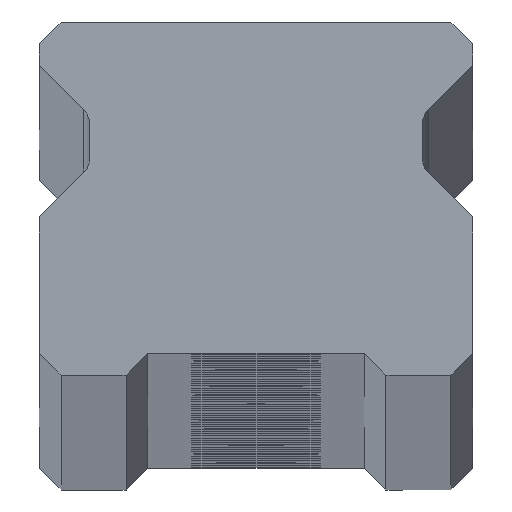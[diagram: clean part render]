
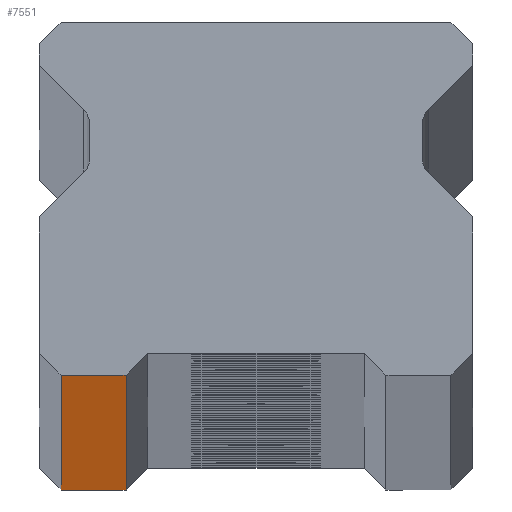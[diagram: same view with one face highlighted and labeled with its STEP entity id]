
A CAD part, top view. The second image highlights one B-rep face of the part: STEP entity #7551.
In plain terms, the highlighted planar face has unit normal (0, -1, 0).
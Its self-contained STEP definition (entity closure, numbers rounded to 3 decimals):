
#22 = DIRECTION ( 'NONE',  ( 0., 0., 1. ) ) ;
#228 = EDGE_CURVE ( 'NONE', #4509, #7674, #234, .T. ) ;
#234 = LINE ( 'NONE', #4354, #7843 ) ;
#270 = VERTEX_POINT ( 'NONE', #5959 ) ;
#332 = PLANE ( 'NONE',  #5417 ) ;
#1190 = FACE_OUTER_BOUND ( 'NONE', #5572, .T. ) ;
#1651 = CARTESIAN_POINT ( 'NONE',  ( 10., 0., 1520. ) ) ;
#1835 = VECTOR ( 'NONE', #8687, 1000. ) ;
#1949 = CARTESIAN_POINT ( 'NONE',  ( -6., 0., -1520. ) ) ;
#2044 = CARTESIAN_POINT ( 'NONE',  ( -6., 0., -1520. ) ) ;
#2822 = EDGE_CURVE ( 'NONE', #3233, #4509, #7905, .T. ) ;
#3015 = LINE ( 'NONE', #3774, #5985 ) ;
#3233 = VERTEX_POINT ( 'NONE', #6404 ) ;
#3442 = ORIENTED_EDGE ( 'NONE', *, *, #228, .T. ) ;
#3528 = ORIENTED_EDGE ( 'NONE', *, *, #4796, .F. ) ;
#3712 = DIRECTION ( 'NONE',  ( 1., 0., 0. ) ) ;
#3774 = CARTESIAN_POINT ( 'NONE',  ( 10., 0., 1520. ) ) ;
#4354 = CARTESIAN_POINT ( 'NONE',  ( 10., 0., -1520. ) ) ;
#4509 = VERTEX_POINT ( 'NONE', #5710 ) ;
#4683 = LINE ( 'NONE', #2044, #8063 ) ;
#4796 = EDGE_CURVE ( 'NONE', #3233, #270, #3015, .T. ) ;
#5137 = DIRECTION ( 'NONE',  ( 1., 0., 0. ) ) ;
#5232 = CARTESIAN_POINT ( 'NONE',  ( -9., 0., 1520. ) ) ;
#5417 = AXIS2_PLACEMENT_3D ( 'NONE', #1651, #6422, #7152 ) ;
#5572 = EDGE_LOOP ( 'NONE', ( #3442, #7969, #3528, #6839 ) ) ;
#5710 = CARTESIAN_POINT ( 'NONE',  ( -9., 0., -1520. ) ) ;
#5959 = CARTESIAN_POINT ( 'NONE',  ( -6., 0., 1520. ) ) ;
#5985 = VECTOR ( 'NONE', #5137, 1000. ) ;
#6240 = EDGE_CURVE ( 'NONE', #7674, #270, #4683, .T. ) ;
#6404 = CARTESIAN_POINT ( 'NONE',  ( -9., 0., 1520. ) ) ;
#6422 = DIRECTION ( 'NONE',  ( 0., 1., 0. ) ) ;
#6839 = ORIENTED_EDGE ( 'NONE', *, *, #2822, .T. ) ;
#7152 = DIRECTION ( 'NONE',  ( -1., 0., 0. ) ) ;
#7551 = ADVANCED_FACE ( 'NONE', ( #1190 ), #332, .F. ) ;
#7674 = VERTEX_POINT ( 'NONE', #1949 ) ;
#7843 = VECTOR ( 'NONE', #3712, 1000. ) ;
#7905 = LINE ( 'NONE', #5232, #1835 ) ;
#7969 = ORIENTED_EDGE ( 'NONE', *, *, #6240, .T. ) ;
#8063 = VECTOR ( 'NONE', #22, 1000. ) ;
#8687 = DIRECTION ( 'NONE',  ( 0., 0., -1. ) ) ;
